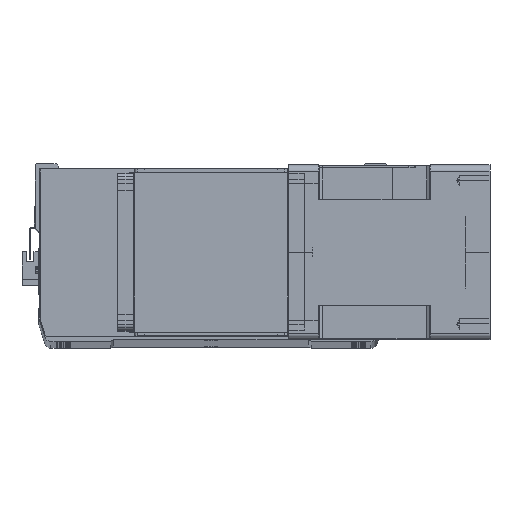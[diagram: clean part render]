
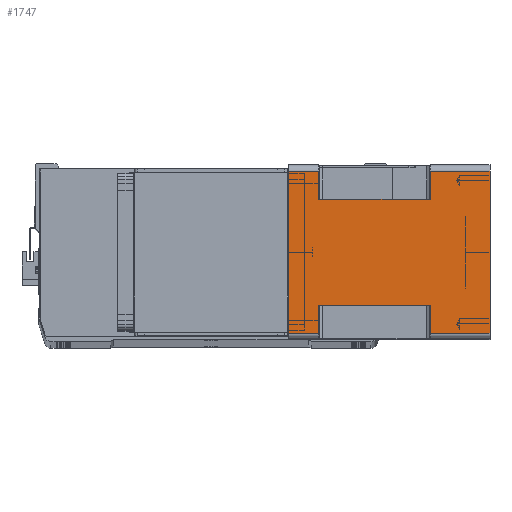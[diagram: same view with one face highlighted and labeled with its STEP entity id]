
A CAD part, top view. The second image highlights one B-rep face of the part: STEP entity #1747.
In plain terms, the highlighted planar face has unit normal (0, 0, 1) as drawn and (1, 0, 0) by its records, which use the part's own axes.
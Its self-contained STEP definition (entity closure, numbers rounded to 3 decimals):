
#47 = CARTESIAN_POINT ( 'NONE',  ( 71., -66., 0. ) ) ;
#309 = LINE ( 'NONE', #34057, #31143 ) ;
#590 = LINE ( 'NONE', #29251, #22536 ) ;
#734 = LINE ( 'NONE', #6314, #6646 ) ;
#786 = DIRECTION ( 'NONE',  ( 0., 0., 1. ) ) ;
#801 = VERTEX_POINT ( 'NONE', #47 ) ;
#1565 = VERTEX_POINT ( 'NONE', #31364 ) ;
#1747 = ADVANCED_FACE ( 'NONE', ( #7190 ), #13696, .T. ) ;
#2417 = CARTESIAN_POINT ( 'NONE',  ( 71., 66., -164. ) ) ;
#2460 = CARTESIAN_POINT ( 'NONE',  ( 71., -43., -115.5 ) ) ;
#2613 = LINE ( 'NONE', #8123, #22414 ) ;
#2765 = DIRECTION ( 'NONE',  ( 0., 0., 1. ) ) ;
#3024 = DIRECTION ( 'NONE',  ( 0., 0., 1. ) ) ;
#3804 = VECTOR ( 'NONE', #12114, 1000. ) ;
#4023 = ORIENTED_EDGE ( 'NONE', *, *, #8705, .T. ) ;
#4937 = CARTESIAN_POINT ( 'NONE',  ( 71., -66., -164. ) ) ;
#5322 = ORIENTED_EDGE ( 'NONE', *, *, #22274, .F. ) ;
#5399 = CARTESIAN_POINT ( 'NONE',  ( 71., -66., -164. ) ) ;
#5439 = DIRECTION ( 'NONE',  ( 0., -1., 0. ) ) ;
#5762 = ORIENTED_EDGE ( 'NONE', *, *, #11406, .F. ) ;
#5811 = EDGE_CURVE ( 'NONE', #20276, #26586, #590, .T. ) ;
#6314 = CARTESIAN_POINT ( 'NONE',  ( 71., -66., -164. ) ) ;
#6646 = VECTOR ( 'NONE', #786, 1000. ) ;
#6748 = CARTESIAN_POINT ( 'NONE',  ( 71., 43., -24.5 ) ) ;
#6763 = ORIENTED_EDGE ( 'NONE', *, *, #17146, .F. ) ;
#7109 = DIRECTION ( 'NONE',  ( 0., 1., 0. ) ) ;
#7190 = FACE_OUTER_BOUND ( 'NONE', #29891, .T. ) ;
#7474 = VECTOR ( 'NONE', #25430, 1000. ) ;
#8123 = CARTESIAN_POINT ( 'NONE',  ( 71., -43., -24.5 ) ) ;
#8487 = EDGE_CURVE ( 'NONE', #11226, #34284, #9185, .T. ) ;
#8705 = EDGE_CURVE ( 'NONE', #11245, #18158, #9152, .T. ) ;
#9050 = DIRECTION ( 'NONE',  ( 0., 1., 0. ) ) ;
#9152 = LINE ( 'NONE', #27109, #12919 ) ;
#9185 = LINE ( 'NONE', #10041, #7474 ) ;
#9709 = ORIENTED_EDGE ( 'NONE', *, *, #12247, .F. ) ;
#10041 = CARTESIAN_POINT ( 'NONE',  ( 71., -66., -115.5 ) ) ;
#10499 = EDGE_CURVE ( 'NONE', #11226, #15481, #27458, .T. ) ;
#10689 = EDGE_CURVE ( 'NONE', #22045, #23354, #16006, .T. ) ;
#10988 = CARTESIAN_POINT ( 'NONE',  ( 71., 43., -115.5 ) ) ;
#11226 = VERTEX_POINT ( 'NONE', #2460 ) ;
#11245 = VERTEX_POINT ( 'NONE', #5399 ) ;
#11258 = DIRECTION ( 'NONE',  ( 1., 0., 0. ) ) ;
#11406 = EDGE_CURVE ( 'NONE', #20519, #801, #734, .T. ) ;
#12114 = DIRECTION ( 'NONE',  ( 0., 0., 1. ) ) ;
#12247 = EDGE_CURVE ( 'NONE', #20276, #23354, #309, .T. ) ;
#12919 = VECTOR ( 'NONE', #9050, 1000. ) ;
#13096 = ORIENTED_EDGE ( 'NONE', *, *, #29414, .T. ) ;
#13098 = CARTESIAN_POINT ( 'NONE',  ( 71., -66., -115.5 ) ) ;
#13696 = PLANE ( 'NONE',  #24604 ) ;
#14762 = CARTESIAN_POINT ( 'NONE',  ( 71., 43., -115.5 ) ) ;
#15481 = VERTEX_POINT ( 'NONE', #31761 ) ;
#16006 = LINE ( 'NONE', #10988, #28305 ) ;
#17146 = EDGE_CURVE ( 'NONE', #11245, #34284, #17264, .T. ) ;
#17264 = LINE ( 'NONE', #4937, #3804 ) ;
#17667 = VECTOR ( 'NONE', #7109, 1000. ) ;
#17817 = EDGE_CURVE ( 'NONE', #18158, #22045, #22271, .T. ) ;
#18038 = DIRECTION ( 'NONE',  ( 0., 0., 1. ) ) ;
#18071 = LINE ( 'NONE', #23263, #17667 ) ;
#18093 = CARTESIAN_POINT ( 'NONE',  ( 71., 66., -115.5 ) ) ;
#18158 = VERTEX_POINT ( 'NONE', #34469 ) ;
#20276 = VERTEX_POINT ( 'NONE', #6748 ) ;
#20519 = VERTEX_POINT ( 'NONE', #24752 ) ;
#21188 = VECTOR ( 'NONE', #3024, 1000. ) ;
#21626 = ORIENTED_EDGE ( 'NONE', *, *, #10499, .F. ) ;
#21858 = CARTESIAN_POINT ( 'NONE',  ( 71., 66., -164. ) ) ;
#22045 = VERTEX_POINT ( 'NONE', #18093 ) ;
#22271 = LINE ( 'NONE', #2417, #26075 ) ;
#22274 = EDGE_CURVE ( 'NONE', #801, #1565, #18071, .T. ) ;
#22414 = VECTOR ( 'NONE', #29751, 1000. ) ;
#22536 = VECTOR ( 'NONE', #35039, 1000. ) ;
#23263 = CARTESIAN_POINT ( 'NONE',  ( 71., -66., 0. ) ) ;
#23354 = VERTEX_POINT ( 'NONE', #14762 ) ;
#23432 = ORIENTED_EDGE ( 'NONE', *, *, #5811, .T. ) ;
#23460 = CARTESIAN_POINT ( 'NONE',  ( 71., -43., -164. ) ) ;
#23581 = DIRECTION ( 'NONE',  ( 0., 0., -1. ) ) ;
#24604 = AXIS2_PLACEMENT_3D ( 'NONE', #32759, #11258, #32658 ) ;
#24752 = CARTESIAN_POINT ( 'NONE',  ( 71., -66., -24.5 ) ) ;
#25280 = VECTOR ( 'NONE', #18038, 1000. ) ;
#25430 = DIRECTION ( 'NONE',  ( 0., -1., 0. ) ) ;
#25723 = ORIENTED_EDGE ( 'NONE', *, *, #32761, .T. ) ;
#26075 = VECTOR ( 'NONE', #2765, 1000. ) ;
#26102 = ORIENTED_EDGE ( 'NONE', *, *, #17817, .T. ) ;
#26586 = VERTEX_POINT ( 'NONE', #31065 ) ;
#27109 = CARTESIAN_POINT ( 'NONE',  ( 71., -66., -164. ) ) ;
#27458 = LINE ( 'NONE', #23460, #25280 ) ;
#28305 = VECTOR ( 'NONE', #5439, 1000. ) ;
#29251 = CARTESIAN_POINT ( 'NONE',  ( 71., -66., -24.5 ) ) ;
#29414 = EDGE_CURVE ( 'NONE', #26586, #1565, #33491, .T. ) ;
#29435 = ORIENTED_EDGE ( 'NONE', *, *, #10689, .T. ) ;
#29751 = DIRECTION ( 'NONE',  ( 0., 1., 0. ) ) ;
#29891 = EDGE_LOOP ( 'NONE', ( #21626, #31663, #6763, #4023, #26102, #29435, #9709, #23432, #13096, #5322, #5762, #25723 ) ) ;
#31065 = CARTESIAN_POINT ( 'NONE',  ( 71., 66., -24.5 ) ) ;
#31143 = VECTOR ( 'NONE', #23581, 1000. ) ;
#31364 = CARTESIAN_POINT ( 'NONE',  ( 71., 66., 0. ) ) ;
#31663 = ORIENTED_EDGE ( 'NONE', *, *, #8487, .T. ) ;
#31761 = CARTESIAN_POINT ( 'NONE',  ( 71., -43., -24.5 ) ) ;
#32658 = DIRECTION ( 'NONE',  ( 0., 1., 0. ) ) ;
#32759 = CARTESIAN_POINT ( 'NONE',  ( 71., -66., -164. ) ) ;
#32761 = EDGE_CURVE ( 'NONE', #20519, #15481, #2613, .T. ) ;
#33491 = LINE ( 'NONE', #21858, #21188 ) ;
#34057 = CARTESIAN_POINT ( 'NONE',  ( 71., 43., -164. ) ) ;
#34284 = VERTEX_POINT ( 'NONE', #13098 ) ;
#34469 = CARTESIAN_POINT ( 'NONE',  ( 71., 66., -164. ) ) ;
#35039 = DIRECTION ( 'NONE',  ( 0., 1., 0. ) ) ;
